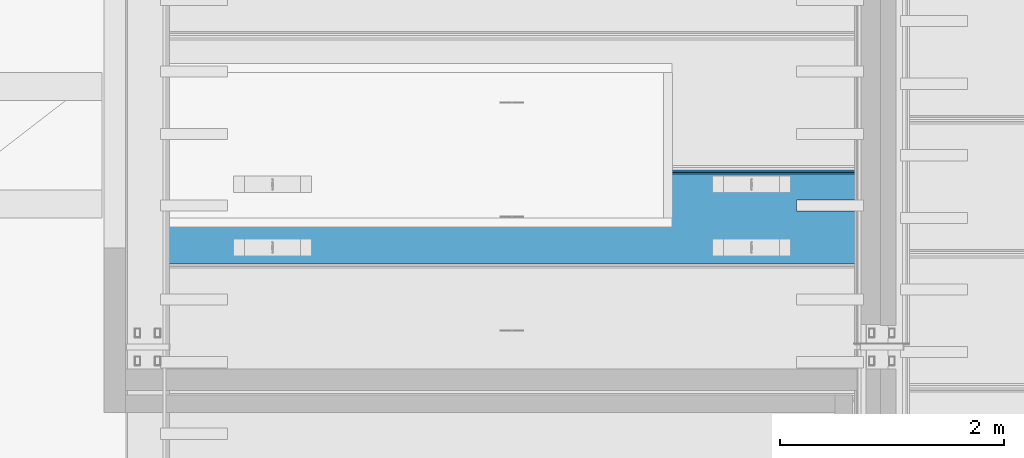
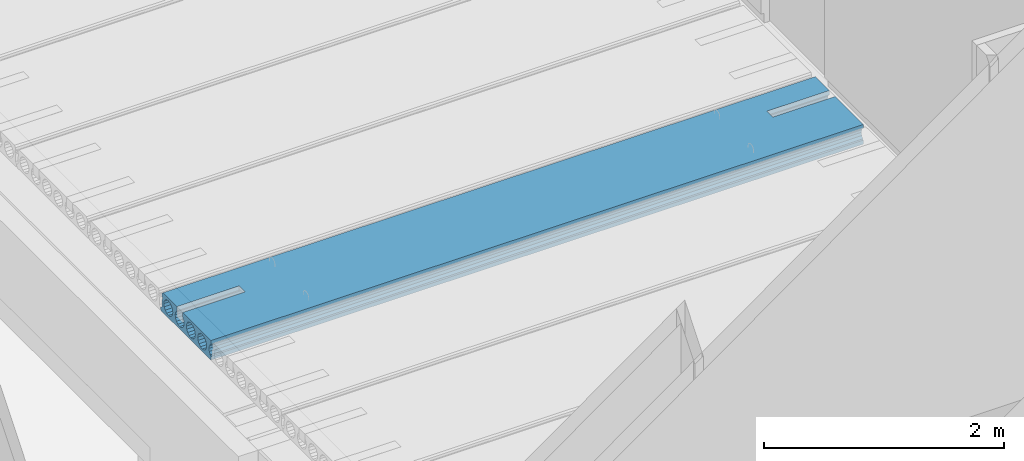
# One storey, part 106 of 230: 1 beam.
"""IFC4X3_ADD2 building model written with IfcOpenShell, lengths in millimetres."""

from ifc_helpers import new_model, si_unit, direction, origin_with_axes, place, context, subcontext, project, spatial, polygons, element, save


model = new_model("IFC4X3_ADD2")

# Units and contexts
model_context = context("Model", 3, precision=1e-05, world=origin_with_axes(), true_north=direction((0.0, 1.0)))
body_context = subcontext(model_context, "Body", "Model", "MODEL_VIEW")
ifc_project = project(units=[si_unit("LENGTHUNIT", "METRE", prefix="MILLI"), si_unit("AREAUNIT", "SQUARE_METRE"), si_unit("VOLUMEUNIT", "CUBIC_METRE"), si_unit("PLANEANGLEUNIT", "RADIAN"), si_unit("TIMEUNIT", "SECOND"), si_unit("MASSUNIT", "GRAM")], contexts=[model_context])

# Site, building, storey
site_placement = place(None, origin_with_axes())
site = spatial("IfcSite", under=ifc_project, at=site_placement, Name="Site", CompositionType="ELEMENT")
building_placement = place(site_placement, origin_with_axes())
building = spatial("IfcBuilding", under=site, at=building_placement, Name="IFC Building Story")
storey_placement = place(building_placement, origin_with_axes())
storey = spatial("IfcBuildingStorey", under=building, at=storey_placement, Name="ETAGE 00 (0)", Elevation=0.0)

# Beam
beam_placement = place(storey_placement, origin_with_axes())
element("IfcBeam", 1, at=beam_placement, inside=storey, Name="HOLLOWCORE SLAB", ObjectType="EB_SP200", context=body_context, shape_type="Tessellation", body=[
    polygons([(33516.189, 8540.00089702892, 4199.9999909), (33516.189, 8540.00089702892, 4153.13344354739), (33516.189, 8539.321441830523, 4152.679446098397), (33516.189, 8523.17187185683, 4128.509906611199), (33516.189, 8517.50089702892, 4099.9999909), (33516.189, 8523.17187185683, 4071.490075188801), (33516.189, 8539.321441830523, 4047.320535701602), (33516.189, 8563.490981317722, 4031.170965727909), (33516.189, 8592.00089702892, 4025.4999909), (33516.189, 8620.510812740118, 4031.170965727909), (33516.189, 8644.680352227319, 4047.320535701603), (33516.189, 8660.829922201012, 4071.490075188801), (33516.189, 8666.50089702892, 4099.9999909), (33516.189, 8660.82992220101, 4128.509906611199), (33516.189, 8644.680352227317, 4152.679446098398), (33516.189, 8640.00089702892, 4155.806158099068), (33516.189, 8640.00089702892, 4199.9999909), (33516.189, 8872.00089702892, 4199.9999909), (33516.189, 8887.289600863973, 4185.002769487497), (33516.189, 8887.77091656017, 4159.9999909), (33516.189, 8880.582260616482, 4151.036789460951), (33516.189, 8878.16096701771, 4139.805000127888), (33516.189, 8881.018275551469, 4128.676139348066), (33516.189, 8888.55088482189, 4119.9999909), (33516.189, 8890.00089702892, 4044.9999909), (33516.189, 8910.00089702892, 4029.9999909), (33516.189, 8910.00089702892, 4012.9999909), (33516.189, 8899.00089702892, 3999.9999909), (33516.189, 8070.000915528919, 3999.9999909), (33516.189, 8070.000915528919, 4040.184764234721), (33516.189, 8080.680352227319, 4047.320535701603), (33516.189, 8096.829922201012, 4071.490075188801), (33516.189, 8102.50089702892, 4099.9999909), (33516.189, 8096.829922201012, 4128.509906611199), (33516.189, 8080.680352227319, 4152.679446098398), (33516.189, 8070.000915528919, 4159.815217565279), (33516.189, 8070.000915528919, 4199.9999909), (33516.189, 8832.680352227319, 4152.679446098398), (33516.189, 8808.510812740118, 4168.829016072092), (33516.189, 8780.00089702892, 4174.4999909), (33516.189, 8751.49098131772, 4168.829016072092), (33516.189, 8727.321441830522, 4152.679446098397), (33516.189, 8711.17187185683, 4128.509906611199), (33516.189, 8705.50089702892, 4099.9999909), (33516.189, 8711.17187185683, 4071.490075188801), (33516.189, 8727.321441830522, 4047.320535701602), (33516.189, 8751.490981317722, 4031.170965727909), (33516.189, 8780.00089702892, 4025.4999909), (33516.189, 8808.510812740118, 4031.170965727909), (33516.189, 8832.680352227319, 4047.320535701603), (33516.189, 8848.829922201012, 4071.490075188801), (33516.189, 8854.50089702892, 4099.9999909), (33516.189, 8848.829922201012, 4128.509906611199), (33516.189, 8456.680352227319, 4152.679446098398), (33516.189, 8432.51081274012, 4168.829016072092), (33516.189, 8404.00089702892, 4174.4999909), (33516.189, 8375.490981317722, 4168.829016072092), (33516.189, 8351.321441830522, 4152.679446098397), (33516.189, 8335.17187185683, 4128.509906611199), (33516.189, 8329.50089702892, 4099.9999909), (33516.189, 8335.17187185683, 4071.490075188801), (33516.189, 8351.321441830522, 4047.320535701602), (33516.189, 8375.490981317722, 4031.170965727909), (33516.189, 8404.00089702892, 4025.4999909), (33516.189, 8432.51081274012, 4031.170965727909), (33516.189, 8456.680352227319, 4047.320535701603), (33516.189, 8472.82992220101, 4071.490075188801), (33516.189, 8478.50089702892, 4099.9999909), (33516.189, 8472.82992220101, 4128.509906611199), (33516.189, 8268.680352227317, 4152.679446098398), (33516.189, 8244.510812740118, 4168.829016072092), (33516.189, 8216.00089702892, 4174.4999909), (33516.189, 8187.490981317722, 4168.829016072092), (33516.189, 8163.321441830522, 4152.679446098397), (33516.189, 8147.17187185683, 4128.509906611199), (33516.189, 8141.50089702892, 4099.9999909), (33516.189, 8147.17187185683, 4071.490075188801), (33516.189, 8163.321441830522, 4047.320535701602), (33516.189, 8187.490981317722, 4031.170965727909), (33516.189, 8216.00089702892, 4025.4999909), (33516.189, 8244.510812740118, 4031.170965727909), (33516.189, 8268.680352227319, 4047.320535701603), (33516.189, 8284.82992220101, 4071.490075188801), (33516.189, 8290.50089702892, 4099.9999909), (33516.189, 8284.82992220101, 4128.509906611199), (39801.189, 8899.00089702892, 3999.9999909), (39801.189, 8910.00089702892, 4012.9999909), (39801.189, 8910.00089702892, 4029.9999909), (39801.189, 8890.00089702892, 4044.9999909), (39801.189, 8888.55088482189, 4119.9999909), (39801.189, 8881.018275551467, 4128.676139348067), (39801.189, 8878.16096701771, 4139.805000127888), (39801.189, 8880.58226061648, 4151.036789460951), (39801.189, 8887.77091656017, 4159.9999909), (39801.189, 8887.289600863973, 4185.002769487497), (39801.189, 8872.00089702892, 4199.9999909), (39801.189, 8640.00089702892, 4199.9999909), (39801.189, 8640.00089702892, 4155.806158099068), (39801.189, 8644.680352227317, 4152.679446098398), (39801.189, 8660.829922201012, 4128.509906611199), (39801.189, 8666.50089702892, 4099.9999909), (39801.189, 8660.829922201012, 4071.490075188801), (39801.189, 8644.680352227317, 4047.320535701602), (39801.189, 8620.510812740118, 4031.170965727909), (39801.189, 8592.00089702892, 4025.4999909), (39801.189, 8563.490981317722, 4031.170965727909), (39801.189, 8539.321441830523, 4047.320535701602), (39801.189, 8523.17187185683, 4071.490075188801), (39801.189, 8517.50089702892, 4099.9999909), (39801.189, 8523.17187185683, 4128.509906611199), (39801.189, 8539.321441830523, 4152.679446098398), (39801.189, 8540.00089702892, 4153.13344354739), (39801.189, 8540.00089702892, 4199.9999909), (39801.189, 8070.000915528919, 4199.9999909), (39801.189, 8070.000915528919, 4159.815217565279), (39801.189, 8080.680352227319, 4152.679446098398), (39801.189, 8096.829922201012, 4128.509906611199), (39801.189, 8102.50089702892, 4099.9999909), (39801.189, 8096.829922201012, 4071.490075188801), (39801.189, 8080.680352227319, 4047.320535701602), (39801.189, 8070.000915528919, 4040.184764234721), (39801.189, 8070.000915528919, 3999.9999909), (39801.189, 8832.680352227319, 4152.679446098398), (39801.189, 8848.829922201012, 4128.509906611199), (39801.189, 8854.50089702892, 4099.9999909), (39801.189, 8848.829922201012, 4071.490075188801), (39801.189, 8832.680352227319, 4047.320535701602), (39801.189, 8808.510812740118, 4031.170965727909), (39801.189, 8780.00089702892, 4025.4999909), (39801.189, 8751.490981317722, 4031.170965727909), (39801.189, 8727.321441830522, 4047.320535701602), (39801.189, 8711.17187185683, 4071.490075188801), (39801.189, 8705.50089702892, 4099.9999909), (39801.189, 8711.17187185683, 4128.509906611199), (39801.189, 8727.321441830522, 4152.679446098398), (39801.189, 8751.490981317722, 4168.829016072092), (39801.189, 8780.00089702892, 4174.4999909), (39801.189, 8808.510812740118, 4168.829016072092), (39801.189, 8456.680352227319, 4152.679446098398), (39801.189, 8472.82992220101, 4128.509906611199), (39801.189, 8478.50089702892, 4099.9999909), (39801.189, 8472.82992220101, 4071.490075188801), (39801.189, 8456.680352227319, 4047.320535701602), (39801.189, 8432.51081274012, 4031.170965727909), (39801.189, 8404.00089702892, 4025.4999909), (39801.189, 8375.490981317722, 4031.170965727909), (39801.189, 8351.321441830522, 4047.320535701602), (39801.189, 8335.17187185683, 4071.490075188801), (39801.189, 8329.50089702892, 4099.9999909), (39801.189, 8335.17187185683, 4128.509906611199), (39801.189, 8351.321441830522, 4152.679446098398), (39801.189, 8375.490981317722, 4168.829016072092), (39801.189, 8404.00089702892, 4174.4999909), (39801.189, 8432.51081274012, 4168.829016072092), (39801.189, 8268.680352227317, 4152.679446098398), (39801.189, 8284.82992220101, 4128.509906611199), (39801.189, 8290.50089702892, 4099.9999909), (39801.189, 8284.82992220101, 4071.490075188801), (39801.189, 8268.680352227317, 4047.320535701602), (39801.189, 8244.510812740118, 4031.170965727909), (39801.189, 8216.00089702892, 4025.4999909), (39801.189, 8187.490981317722, 4031.170965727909), (39801.189, 8163.321441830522, 4047.320535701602), (39801.189, 8147.17187185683, 4071.490075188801), (39801.189, 8141.50089702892, 4099.9999909), (39801.189, 8147.17187185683, 4128.509906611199), (39801.189, 8163.321441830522, 4152.679446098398), (39801.189, 8187.490981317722, 4168.829016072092), (39801.189, 8216.00089702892, 4174.4999909), (39801.189, 8244.510812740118, 4168.829016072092), (34116.189, 8640.00089702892, 4199.9999909), (34116.189, 8540.00089702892, 4199.9999909), (39201.189, 8540.000897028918, 4199.9999909), (39201.189, 8640.00089702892, 4199.9999909), (39201.189, 8640.000897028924, 4155.806158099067), (39201.189, 8620.510812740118, 4168.829016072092), (34116.189, 8620.51081274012, 4168.82901607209), (34116.189, 8640.00089702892, 4155.806158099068), (39201.189, 8592.00089702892, 4174.4999909), (34116.189, 8592.000897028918, 4174.4999909), (39201.189, 8563.490981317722, 4168.829016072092), (34116.189, 8563.490981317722, 4168.829016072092), (34116.189, 8540.000897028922, 4153.133443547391), (39201.189, 8540.00089702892, 4153.13344354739), (34116.189, 8540.00089702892, 4199.999996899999), (34116.189, 8640.00089702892, 4199.999996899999), (39201.189, 8640.00089702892, 4199.999996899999), (39201.189, 8540.00089702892, 4199.999996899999)], [[[69, 54, 1]], [[69, 1, 2]], [[4, 5, 68]], [[4, 68, 69]], [[69, 3, 4]], [[69, 2, 3]], [[6, 7, 67]], [[67, 68, 5]], [[67, 5, 6]], [[7, 66, 67]], [[15, 16, 17]], [[41, 42, 14]], [[41, 14, 15]], [[41, 15, 17]], [[17, 40, 41]], [[17, 18, 40]], [[18, 39, 40]], [[18, 38, 39]], [[43, 44, 13]], [[43, 13, 14]], [[14, 42, 43]], [[45, 46, 12]], [[12, 13, 44]], [[12, 44, 45]], [[21, 22, 53]], [[21, 53, 38]], [[38, 18, 19]], [[38, 19, 20]], [[38, 20, 21]], [[23, 24, 52]], [[23, 52, 53]], [[53, 22, 23]], [[24, 25, 51]], [[24, 51, 52]], [[25, 26, 27]], [[25, 27, 28]], [[28, 50, 51]], [[28, 51, 25]], [[28, 49, 50]], [[28, 48, 49]], [[28, 47, 48]], [[28, 11, 47]], [[11, 12, 46]], [[11, 46, 47]], [[28, 10, 11]], [[28, 9, 10]], [[28, 65, 9]], [[65, 8, 9]], [[65, 66, 7]], [[65, 7, 8]], [[28, 64, 65]], [[28, 29, 64]], [[29, 63, 64]], [[29, 62, 63]], [[35, 36, 37]], [[73, 74, 34]], [[73, 34, 35]], [[73, 35, 37]], [[37, 72, 73]], [[72, 37, 1]], [[1, 71, 72]], [[1, 70, 71]], [[75, 76, 33]], [[75, 33, 34]], [[34, 74, 75]], [[77, 78, 32]], [[32, 33, 76]], [[32, 76, 77]], [[81, 82, 61]], [[81, 61, 62]], [[62, 80, 81]], [[80, 62, 29]], [[29, 79, 80]], [[29, 31, 32]], [[29, 32, 78]], [[29, 78, 79]], [[29, 30, 31]], [[83, 84, 60]], [[83, 60, 61]], [[61, 82, 83]], [[85, 70, 59]], [[59, 60, 84]], [[59, 84, 85]], [[70, 58, 59]], [[70, 57, 58]], [[70, 56, 57]], [[56, 70, 1]], [[1, 55, 56]], [[1, 54, 55]], [[120, 121, 122]], [[93, 94, 95]], [[93, 95, 96]], [[93, 96, 123]], [[123, 124, 92]], [[123, 92, 93]], [[124, 91, 92]], [[126, 127, 89]], [[89, 90, 125]], [[89, 125, 126]], [[90, 91, 124]], [[90, 124, 125]], [[138, 123, 96]], [[96, 137, 138]], [[137, 96, 97]], [[97, 136, 137]], [[97, 135, 136]], [[97, 98, 134]], [[97, 134, 135]], [[100, 101, 133]], [[100, 133, 134]], [[134, 99, 100]], [[134, 98, 99]], [[102, 103, 132]], [[132, 133, 101]], [[132, 101, 102]], [[103, 131, 132]], [[111, 112, 113]], [[113, 139, 110]], [[113, 110, 111]], [[140, 141, 109]], [[140, 109, 110]], [[110, 139, 140]], [[142, 143, 108]], [[108, 109, 141]], [[108, 141, 142]], [[143, 107, 108]], [[154, 139, 113]], [[113, 153, 154]], [[113, 155, 153]], [[155, 152, 153]], [[155, 151, 152]], [[155, 150, 151]], [[156, 157, 149]], [[156, 149, 150]], [[150, 155, 156]], [[158, 159, 148]], [[148, 149, 157]], [[148, 157, 158]], [[162, 163, 119]], [[162, 119, 120]], [[162, 120, 122]], [[122, 161, 162]], [[122, 147, 161]], [[147, 160, 161]], [[147, 148, 159]], [[147, 159, 160]], [[122, 146, 147]], [[122, 145, 146]], [[122, 106, 145]], [[106, 144, 145]], [[106, 107, 143]], [[106, 143, 144]], [[122, 105, 106]], [[122, 130, 105]], [[130, 104, 105]], [[130, 131, 103]], [[130, 103, 104]], [[122, 129, 130]], [[122, 86, 129]], [[86, 128, 129]], [[86, 89, 127]], [[86, 127, 128]], [[86, 87, 88]], [[86, 88, 89]], [[164, 165, 118]], [[164, 118, 119]], [[119, 163, 164]], [[166, 167, 117]], [[117, 118, 165]], [[117, 165, 166]], [[170, 155, 113]], [[113, 169, 170]], [[113, 114, 169]], [[114, 168, 169]], [[114, 116, 117]], [[114, 117, 167]], [[114, 167, 168]], [[114, 115, 116]], [[28, 86, 122, 29]], [[172, 1, 37]], [[172, 37, 114]], [[114, 171, 172]], [[174, 97, 96]], [[174, 96, 18]], [[18, 173, 174]], [[18, 171, 114]], [[18, 114, 173]], [[114, 113, 173]], [[18, 17, 171]], [[19, 18, 96, 95]], [[20, 19, 95, 94]], [[21, 20, 94, 93]], [[22, 21, 93, 92]], [[23, 22, 92, 91]], [[24, 23, 91, 90]], [[25, 24, 90, 89]], [[26, 25, 89, 88]], [[27, 26, 88, 87]], [[28, 27, 87, 86]], [[39, 38, 123, 138]], [[40, 39, 138, 137]], [[41, 40, 137, 136]], [[42, 41, 136, 135]], [[43, 42, 135, 134]], [[44, 43, 134, 133]], [[45, 44, 133, 132]], [[46, 45, 132, 131]], [[47, 46, 131, 130]], [[48, 47, 130, 129]], [[49, 48, 129, 128]], [[50, 49, 128, 127]], [[51, 50, 127, 126]], [[52, 51, 126, 125]], [[53, 52, 125, 124]], [[38, 53, 124, 123]], [[178, 16, 15]], [[178, 15, 175]], [[175, 176, 177]], [[175, 177, 178]], [[15, 99, 175]], [[99, 98, 175]], [[177, 176, 179, 180]], [[180, 179, 181, 182]], [[184, 112, 111]], [[184, 111, 183]], [[183, 182, 181]], [[183, 181, 184]], [[111, 3, 183]], [[3, 2, 183]], [[4, 3, 111, 110]], [[5, 4, 110, 109]], [[6, 5, 109, 108]], [[7, 6, 108, 107]], [[8, 7, 107, 106]], [[9, 8, 106, 105]], [[10, 9, 105, 104]], [[11, 10, 104, 103]], [[12, 11, 103, 102]], [[13, 12, 102, 101]], [[14, 13, 101, 100]], [[15, 14, 100, 99]], [[55, 54, 139, 154]], [[56, 55, 154, 153]], [[57, 56, 153, 152]], [[58, 57, 152, 151]], [[59, 58, 151, 150]], [[60, 59, 150, 149]], [[61, 60, 149, 148]], [[62, 61, 148, 147]], [[63, 62, 147, 146]], [[64, 63, 146, 145]], [[65, 64, 145, 144]], [[66, 65, 144, 143]], [[67, 66, 143, 142]], [[68, 67, 142, 141]], [[69, 68, 141, 140]], [[54, 69, 140, 139]], [[71, 70, 155, 170]], [[72, 71, 170, 169]], [[73, 72, 169, 168]], [[74, 73, 168, 167]], [[75, 74, 167, 166]], [[76, 75, 166, 165]], [[77, 76, 165, 164]], [[78, 77, 164, 163]], [[79, 78, 163, 162]], [[80, 79, 162, 161]], [[81, 80, 161, 160]], [[82, 81, 160, 159]], [[83, 82, 159, 158]], [[84, 83, 158, 157]], [[85, 84, 157, 156]], [[70, 85, 156, 155]], [[35, 116, 115, 36]], [[120, 31, 30, 121]], [[32, 31, 120, 119]], [[33, 32, 119, 118]], [[34, 33, 118, 117]], [[35, 34, 117, 116]], [[17, 16, 178, 171]], [[2, 1, 185, 183]], [[182, 183, 172]], [[172, 186, 180]], [[172, 180, 182]], [[186, 177, 180]], [[186, 178, 177]], [[113, 112, 184, 173]], [[98, 97, 187, 175]], [[176, 175, 174]], [[174, 179, 176]], [[174, 188, 181]], [[174, 181, 179]], [[188, 184, 181]], [[30, 29, 122, 121]], [[37, 36, 115, 114]]]),
])

save(model, "model.ifc")
